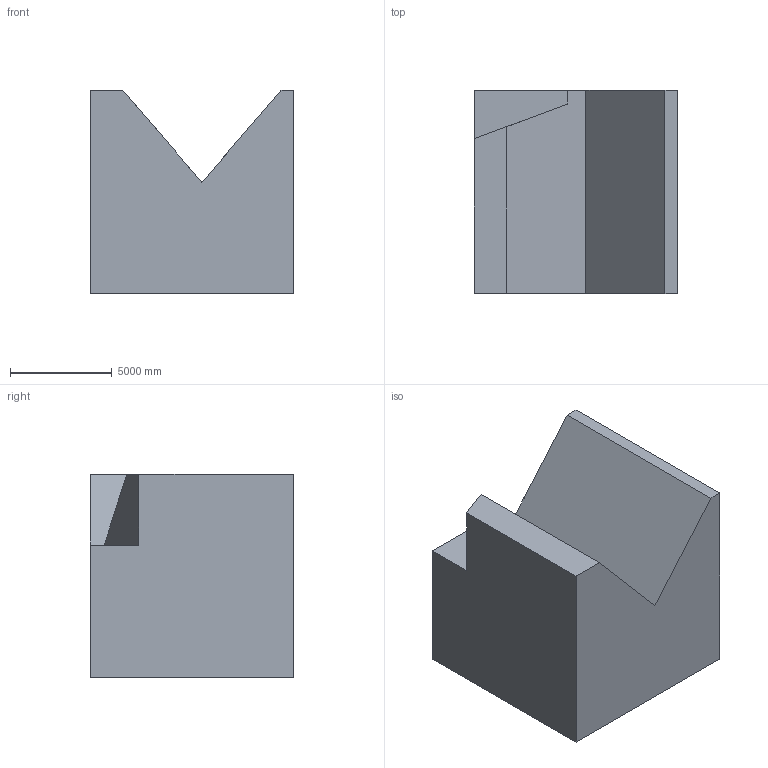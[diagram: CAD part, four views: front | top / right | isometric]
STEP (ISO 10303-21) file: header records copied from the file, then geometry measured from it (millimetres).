
FILE_DESCRIPTION (( 'STEP AP203' ), '1' );
FILE_NAME ('29.STEP', '2022-07-28T13:26:43', ( 'user' ), ( '' ), 'SwSTEP 2.0', 'SolidWorks 2021', '' );
FILE_SCHEMA (( 'CONFIG_CONTROL_DESIGN' ));
Length unit declared in the file: centimetre
Products named in the file (1): 29
Bounding box: 10000 x 10000 x 10000 mm (x, y, z)
Volume: 805145686719.9 mm3; surface area: 596821708.9 mm2
Topology: 1 solids, 1 shells, 13 faces, 33 edges, 22 vertices
Faces by surface type: plane 13
Entity records: 464 total; most frequent: CARTESIAN_POINT 69, ORIENTED_EDGE 66, DIRECTION 61, LINE 33, VECTOR 33, EDGE_CURVE 33, VERTEX_POINT 22, AXIS2_PLACEMENT_3D 14
